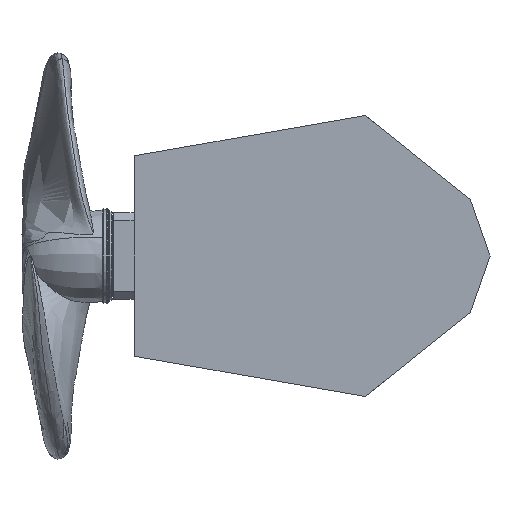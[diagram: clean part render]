
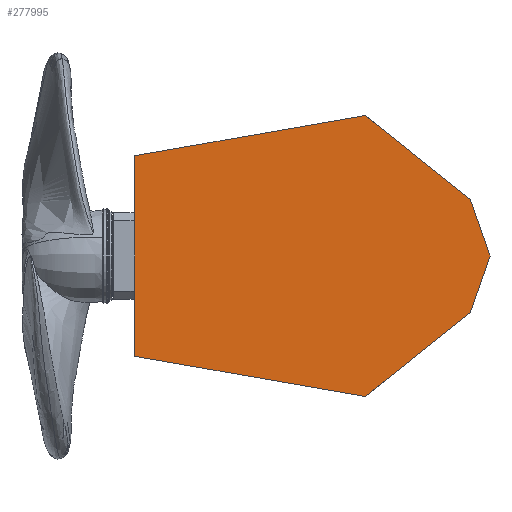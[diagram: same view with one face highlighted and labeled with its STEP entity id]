
A CAD part, front view. The second image highlights one B-rep face of the part: STEP entity #277995.
In plain terms, the highlighted planar face has unit normal (0, -1, 0).
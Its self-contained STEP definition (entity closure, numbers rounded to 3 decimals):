
#6261 = CARTESIAN_POINT ( 'NONE',  ( 937.08, -2325.996, 0. ) ) ;
#6410 = VERTEX_POINT ( 'NONE', #345374 ) ;
#13930 = CARTESIAN_POINT ( 'NONE',  ( 877.08, -2325.996, -171. ) ) ;
#18402 = EDGE_CURVE ( 'NONE', #311734, #340644, #390527, .T. ) ;
#21875 = CARTESIAN_POINT ( 'NONE',  ( 90.413, -2325.996, 345.833 ) ) ;
#31416 = CARTESIAN_POINT ( 'NONE',  ( 649.023, -2325.996, 353.802 ) ) ;
#35041 = CARTESIAN_POINT ( 'NONE',  ( 917.08, -2325.996, -57. ) ) ;
#54327 = ORIENTED_EDGE ( 'NONE', *, *, #313350, .F. ) ;
#55550 = CARTESIAN_POINT ( 'NONE',  ( -142.92, -2325.996, 101.667 ) ) ;
#56868 = CARTESIAN_POINT ( 'NONE',  ( 323.747, -2325.996, -386.667 ) ) ;
#58770 = CARTESIAN_POINT ( 'NONE',  ( 752.685, -2325.996, -270.71 ) ) ;
#60161 = DIRECTION ( 'NONE',  ( 0., -1., 0. ) ) ;
#62911 = CARTESIAN_POINT ( 'NONE',  ( 752.685, -2325.996, 270.71 ) ) ;
#65866 = AXIS2_PLACEMENT_3D ( 'NONE', #248056, #60161, #279618 ) ;
#70449 = ORIENTED_EDGE ( 'NONE', *, *, #18402, .F. ) ;
#74417 = B_SPLINE_CURVE_WITH_KNOTS ( 'NONE', 3,
 ( #339880, #120502, #246664, #58770, #278227, #90275, #309727, #121851, #341227, #153446, #372748, #184948 ),
 .UNSPECIFIED., .F., .F.,
 ( 4, 1, 1, 1, 2, 1, 1, 1, 4 ),
 ( 0., 0.194, 0.389, 0.583, 0.777, 0.833, 0.889, 0.944, 1. ),
 .UNSPECIFIED. ) ;
#79062 = CARTESIAN_POINT ( 'NONE',  ( 877.08, -2325.996, 171. ) ) ;
#84868 = CARTESIAN_POINT ( 'NONE',  ( 323.747, -2325.996, 386.667 ) ) ;
#88367 = CARTESIAN_POINT ( 'NONE',  ( -142.92, -2325.996, -305. ) ) ;
#90275 = CARTESIAN_POINT ( 'NONE',  ( 649.023, -2325.996, -353.802 ) ) ;
#93069 = CARTESIAN_POINT ( 'NONE',  ( 563.014, -2325.996, 422.743 ) ) ;
#94444 = CARTESIAN_POINT ( 'NONE',  ( 856.348, -2325.996, 187.618 ) ) ;
#100763 = CARTESIAN_POINT ( 'NONE',  ( 877.08, -2325.996, -171. ) ) ;
#120502 = CARTESIAN_POINT ( 'NONE',  ( 856.348, -2325.996, -187.618 ) ) ;
#121851 = CARTESIAN_POINT ( 'NONE',  ( 610.488, -2325.996, -384.69 ) ) ;
#127112 = FACE_OUTER_BOUND ( 'NONE', #374758, .T. ) ;
#127969 = ORIENTED_EDGE ( 'NONE', *, *, #202207, .F. ) ;
#140294 = CARTESIAN_POINT ( 'NONE',  ( -142.92, -2325.996, -305. ) ) ;
#142341 = VERTEX_POINT ( 'NONE', #13930 ) ;
#152135 = PLANE ( 'NONE',  #65866 ) ;
#153446 = CARTESIAN_POINT ( 'NONE',  ( 574.883, -2325.996, -413.23 ) ) ;
#170675 = CARTESIAN_POINT ( 'NONE',  ( 917.08, -2325.996, 57. ) ) ;
#179448 = CARTESIAN_POINT ( 'NONE',  ( -142.92, -2325.996, 305. ) ) ;
#184948 = CARTESIAN_POINT ( 'NONE',  ( 557.08, -2325.996, -427.5 ) ) ;
#187729 = CARTESIAN_POINT ( 'NONE',  ( 592.685, -2325.996, 398.96 ) ) ;
#187975 = B_SPLINE_CURVE_WITH_KNOTS ( 'NONE', 3,
 ( #326974, #358463, #170675, #389981 ),
 .UNSPECIFIED., .F., .F.,
 ( 4, 4 ),
 ( 0., 1. ),
 .UNSPECIFIED. ) ;
#202207 = EDGE_CURVE ( 'NONE', #142341, #311734, #74417, .T. ) ;
#211900 = CARTESIAN_POINT ( 'NONE',  ( -142.92, -2325.996, -305. ) ) ;
#219264 = CARTESIAN_POINT ( 'NONE',  ( 622.356, -2325.996, 375.177 ) ) ;
#230664 = VERTEX_POINT ( 'NONE', #79062 ) ;
#241238 = CARTESIAN_POINT ( 'NONE',  ( -142.92, -2325.996, 305. ) ) ;
#242848 = ORIENTED_EDGE ( 'NONE', *, *, #362514, .F. ) ;
#244750 = CARTESIAN_POINT ( 'NONE',  ( 90.413, -2325.996, -345.833 ) ) ;
#246664 = CARTESIAN_POINT ( 'NONE',  ( 814.883, -2325.996, -220.855 ) ) ;
#248056 = CARTESIAN_POINT ( 'NONE',  ( 773.774, -2325.996, -465.421 ) ) ;
#250814 = CARTESIAN_POINT ( 'NONE',  ( 690.488, -2325.996, 320.565 ) ) ;
#252621 = EDGE_CURVE ( 'NONE', #271047, #230664, #264474, .T. ) ;
#264474 = B_SPLINE_CURVE_WITH_KNOTS ( 'NONE', 3,
 ( #281015, #93069, #375540, #187729, #407046, #219264, #31416, #250814, #62911, #282371, #94444, #313859 ),
 .UNSPECIFIED., .F., .F.,
 ( 4, 1, 1, 1, 2, 1, 1, 1, 4 ),
 ( 0., 0.056, 0.111, 0.167, 0.223, 0.417, 0.611, 0.806, 1. ),
 .UNSPECIFIED. ) ;
#269958 = B_SPLINE_CURVE_WITH_KNOTS ( 'NONE', 3,
 ( #6261, #35041, #288701, #100763 ),
 .UNSPECIFIED., .F., .F.,
 ( 4, 4 ),
 ( 0., 1. ),
 .UNSPECIFIED. ) ;
#271047 = VERTEX_POINT ( 'NONE', #313718 ) ;
#274955 = CARTESIAN_POINT ( 'NONE',  ( -142.92, -2325.996, 305. ) ) ;
#277995 = ADVANCED_FACE ( 'NONE', ( #127112 ), #152135, .T. ) ;
#278227 = CARTESIAN_POINT ( 'NONE',  ( 690.488, -2325.996, -320.565 ) ) ;
#279618 = DIRECTION ( 'NONE',  ( 0., 0., -1. ) ) ;
#281015 = CARTESIAN_POINT ( 'NONE',  ( 557.08, -2325.996, 427.5 ) ) ;
#282371 = CARTESIAN_POINT ( 'NONE',  ( 814.883, -2325.996, 220.855 ) ) ;
#288701 = CARTESIAN_POINT ( 'NONE',  ( 897.08, -2325.996, -114. ) ) ;
#304332 = CARTESIAN_POINT ( 'NONE',  ( 557.08, -2325.996, 427.5 ) ) ;
#306070 = VERTEX_POINT ( 'NONE', #179448 ) ;
#306478 = CARTESIAN_POINT ( 'NONE',  ( 557.08, -2325.996, -427.5 ) ) ;
#309727 = CARTESIAN_POINT ( 'NONE',  ( 622.356, -2325.996, -375.177 ) ) ;
#311734 = VERTEX_POINT ( 'NONE', #314226 ) ;
#313350 = EDGE_CURVE ( 'NONE', #306070, #271047, #364522, .T. ) ;
#313718 = CARTESIAN_POINT ( 'NONE',  ( 557.08, -2325.996, 427.5 ) ) ;
#313859 = CARTESIAN_POINT ( 'NONE',  ( 877.08, -2325.996, 171. ) ) ;
#314226 = CARTESIAN_POINT ( 'NONE',  ( 557.08, -2325.996, -427.5 ) ) ;
#317817 = EDGE_CURVE ( 'NONE', #6410, #142341, #269958, .T. ) ;
#326974 = CARTESIAN_POINT ( 'NONE',  ( 877.08, -2325.996, 171. ) ) ;
#336106 = EDGE_CURVE ( 'NONE', #230664, #6410, #187975, .T. ) ;
#339880 = CARTESIAN_POINT ( 'NONE',  ( 877.08, -2325.996, -171. ) ) ;
#340644 = VERTEX_POINT ( 'NONE', #140294 ) ;
#341227 = CARTESIAN_POINT ( 'NONE',  ( 592.685, -2325.996, -398.96 ) ) ;
#345374 = CARTESIAN_POINT ( 'NONE',  ( 937.08, -2325.996, 0. ) ) ;
#358463 = CARTESIAN_POINT ( 'NONE',  ( 897.08, -2325.996, 114. ) ) ;
#362514 = EDGE_CURVE ( 'NONE', #340644, #306070, #375297, .T. ) ;
#364522 = B_SPLINE_CURVE_WITH_KNOTS ( 'NONE', 3,
 ( #241238, #21875, #84868, #304332 ),
 .UNSPECIFIED., .F., .F.,
 ( 4, 4 ),
 ( 0., 1. ),
 .UNSPECIFIED. ) ;
#372710 = ORIENTED_EDGE ( 'NONE', *, *, #336106, .F. ) ;
#372748 = CARTESIAN_POINT ( 'NONE',  ( 563.014, -2325.996, -422.743 ) ) ;
#374758 = EDGE_LOOP ( 'NONE', ( #70449, #127969, #377945, #372710, #401076, #54327, #242848 ) ) ;
#375297 = B_SPLINE_CURVE_WITH_KNOTS ( 'NONE', 3,
 ( #211900, #399651, #55550, #274955 ),
 .UNSPECIFIED., .F., .F.,
 ( 4, 4 ),
 ( 0., 1. ),
 .UNSPECIFIED. ) ;
#375540 = CARTESIAN_POINT ( 'NONE',  ( 574.883, -2325.996, 413.23 ) ) ;
#377945 = ORIENTED_EDGE ( 'NONE', *, *, #317817, .F. ) ;
#389981 = CARTESIAN_POINT ( 'NONE',  ( 937.08, -2325.996, 0. ) ) ;
#390527 = B_SPLINE_CURVE_WITH_KNOTS ( 'NONE', 3,
 ( #306478, #56868, #244750, #88367 ),
 .UNSPECIFIED., .F., .F.,
 ( 4, 4 ),
 ( 0., 1. ),
 .UNSPECIFIED. ) ;
#399651 = CARTESIAN_POINT ( 'NONE',  ( -142.92, -2325.996, -101.667 ) ) ;
#401076 = ORIENTED_EDGE ( 'NONE', *, *, #252621, .F. ) ;
#407046 = CARTESIAN_POINT ( 'NONE',  ( 610.488, -2325.996, 384.69 ) ) ;
